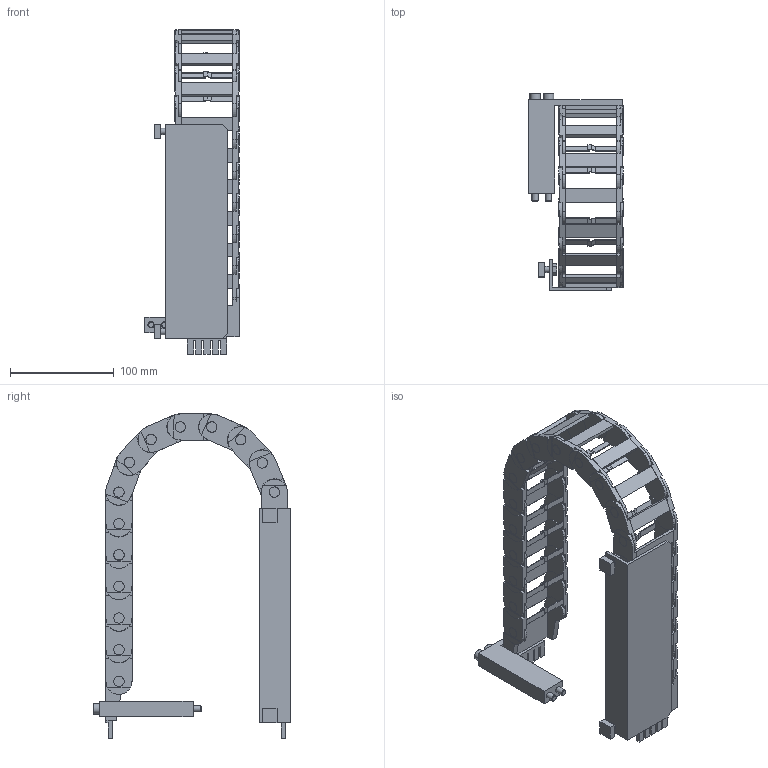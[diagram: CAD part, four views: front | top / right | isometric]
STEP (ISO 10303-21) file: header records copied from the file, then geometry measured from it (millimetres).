
FILE_DESCRIPTION( ( 'STEP AP214' ), '1' );
FILE_NAME( 'U:/Etudes/Top Solid/BIBLIO 3D AVM/STEP/N_ELECTRIQUE/Linéaires/Add_2008/8319333.step', '2008-10-07T13:19:33', ( ' ' ), ( ' ' ), 'XStep 1.0', ' ', ' ' );
FILE_SCHEMA( ( 'automotive_design' ) );
Length unit declared in the file: millimetre
Products named in the file (21): 1; 2; 3; 4; 5; 6; 7; 8; 9; 10; 11; 12; 13; 14; 15; 16; 17; 18; 19; 20; 21
Bounding box: 91 x 190 x 313.21 mm (x, y, z)
Volume: 335479.1 mm3; surface area: 230940 mm2
Topology: 21 solids, 23 shells, 1650 faces, 4647 edges, 3097 vertices
Faces by surface type: plane 1249, cylinder 399, cone 2
Full cylindrical faces by diameter (mm): 6 x8, 6.2 x2, 6.5 x2, 10 x2
Entity records: 66785 total; most frequent: CARTESIAN_POINT 9441, ORIENTED_EDGE 9238, DIRECTION 9063, EDGE_CURVE 4619, LINE 3513, VECTOR 3513, VERTEX_POINT 3085, AXIS2_PLACEMENT_3D 2775
